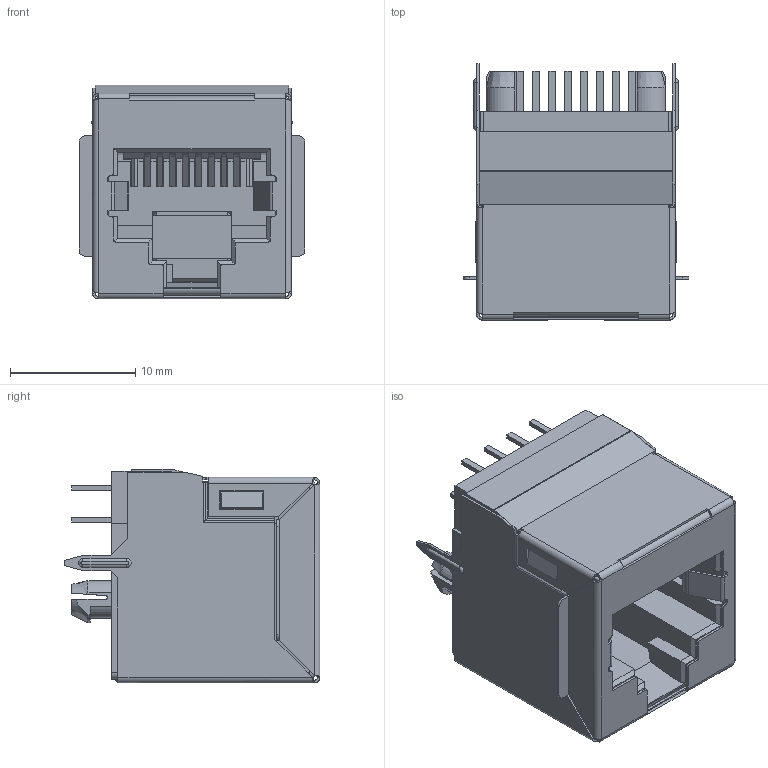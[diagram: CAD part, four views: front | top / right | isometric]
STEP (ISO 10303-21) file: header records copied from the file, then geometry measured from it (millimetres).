
FILE_DESCRIPTION((''),'2;1');
FILE_NAME('5228E_ASM','2026-04-16T14:57:45',('DGKYD'),(''),'CREO PARAMETRIC BY PTC INC, 2019010','CREO PARAMETRIC BY PTC INC, 2019010','');
FILE_SCHEMA(('CONFIG_CONTROL_DESIGN'));
Length unit declared in the file: millimetre
Products named in the file (21): MSBR-20; MSBR-19; MSBR-18; MSBR-17; MSBR-16; MSBR-15; MSBR-14; MSBR-13; MSBR-12; MSBR-11; MSBR-10; MSBR-9; MSBR-8; MSBR-7; MSBR-6; MSBR-5; MSBR-4; MSBR-3; MSBR-2; MSBR-1; 5228E_ASM
Assembly tree (20 placements, depth 2):
  5228E_ASM
    MSBR-20
    MSBR-19
    MSBR-18
    MSBR-17
    MSBR-16
    MSBR-15
    MSBR-14
    MSBR-13
    MSBR-12
    MSBR-11
    MSBR-10
    MSBR-9
    MSBR-8
    MSBR-7
    MSBR-6
    MSBR-5
    MSBR-4
    MSBR-3
    MSBR-2
    MSBR-1
Bounding box: 18 x 20.4 x 17.03 mm (x, y, z)
Volume: 2326 mm3; surface area: 6281.9 mm2
Topology: 20 solids, 23 shells, 1095 faces, 3077 edges, 2010 vertices
Faces by surface type: plane 954, cylinder 120, bspline 16, cone 3, sphere 2
Entity records: 36051 total; most frequent: CARTESIAN_POINT 7375, ORIENTED_EDGE 6146, DIRECTION 5453, EDGE_CURVE 3073, VECTOR 2783, LINE 2783, VERTEX_POINT 2010, AXIS2_PLACEMENT_3D 1335
